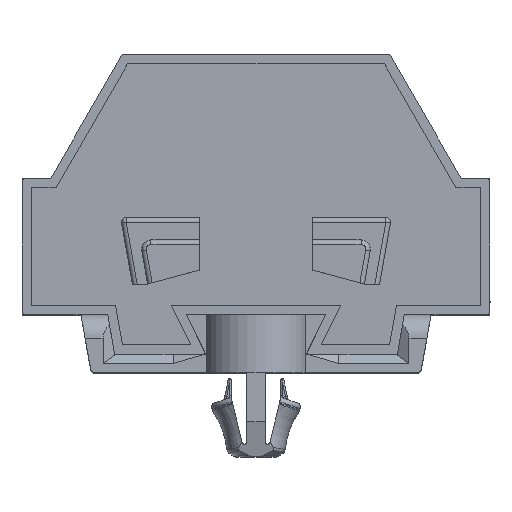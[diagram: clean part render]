
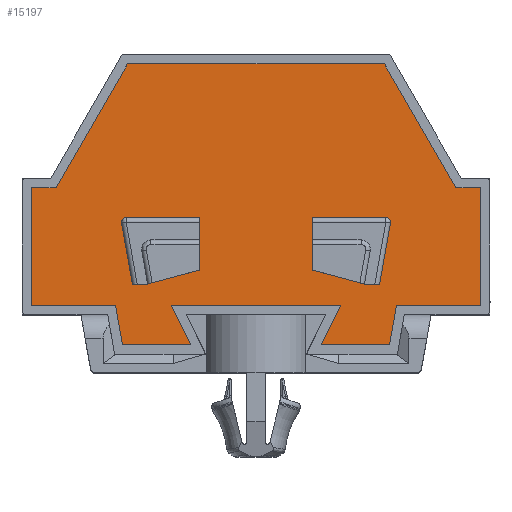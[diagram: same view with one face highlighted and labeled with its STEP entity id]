
A CAD part, top view. The second image highlights one B-rep face of the part: STEP entity #15197.
In plain terms, the highlighted planar face has unit normal (0, 0, 1).
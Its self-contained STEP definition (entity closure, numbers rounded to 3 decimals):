
#1500=DIRECTION('',(0.,-1.,0.));
#1501=VECTOR('',#1500,6.3);
#1502=CARTESIAN_POINT('',(12.,8.8,14.8));
#1503=LINE('',#1502,#1501);
#1504=DIRECTION('',(-1.,0.,0.));
#1505=VECTOR('',#1504,4.494);
#1506=CARTESIAN_POINT('',(12.,2.5,14.8));
#1507=LINE('',#1506,#1505);
#1508=DIRECTION('',(-0.174,-0.985,0.));
#1509=VECTOR('',#1508,2.132);
#1510=CARTESIAN_POINT('',(7.505,2.5,14.8));
#1511=LINE('',#1510,#1509);
#1512=DIRECTION('',(-1.,0.,0.));
#1513=VECTOR('',#1512,3.65);
#1514=CARTESIAN_POINT('',(7.135,0.4,14.8));
#1515=LINE('',#1514,#1513);
#1516=DIRECTION('',(0.447,0.894,0.));
#1517=VECTOR('',#1516,2.348);
#1518=CARTESIAN_POINT('',(3.485,0.4,14.8));
#1519=LINE('',#1518,#1517);
#1520=DIRECTION('',(-1.,0.,0.));
#1521=VECTOR('',#1520,9.07);
#1522=CARTESIAN_POINT('',(4.535,2.5,14.8));
#1523=LINE('',#1522,#1521);
#1524=DIRECTION('',(0.447,-0.894,0.));
#1525=VECTOR('',#1524,2.348);
#1526=CARTESIAN_POINT('',(-4.535,2.5,14.8));
#1527=LINE('',#1526,#1525);
#1528=DIRECTION('',(-1.,0.,0.));
#1529=VECTOR('',#1528,3.65);
#1530=CARTESIAN_POINT('',(-3.485,0.4,14.8));
#1531=LINE('',#1530,#1529);
#1532=DIRECTION('',(-0.174,0.985,0.));
#1533=VECTOR('',#1532,2.132);
#1534=CARTESIAN_POINT('',(-7.135,0.4,14.8));
#1535=LINE('',#1534,#1533);
#1536=DIRECTION('',(-1.,0.,0.));
#1537=VECTOR('',#1536,4.495);
#1538=CARTESIAN_POINT('',(-7.505,2.5,14.8));
#1539=LINE('',#1538,#1537);
#1540=DIRECTION('',(0.,1.,0.));
#1541=VECTOR('',#1540,6.3);
#1542=CARTESIAN_POINT('',(-12.,2.5,14.8));
#1543=LINE('',#1542,#1541);
#1544=DIRECTION('',(1.,0.,0.));
#1545=VECTOR('',#1544,1.328);
#1546=CARTESIAN_POINT('',(-12.,8.8,14.8));
#1547=LINE('',#1546,#1545);
#1548=DIRECTION('',(0.5,0.866,0.));
#1549=VECTOR('',#1548,7.621);
#1550=CARTESIAN_POINT('',(-10.672,8.8,14.8));
#1551=LINE('',#1550,#1549);
#1552=DIRECTION('',(1.,0.,0.));
#1553=VECTOR('',#1552,13.723);
#1554=CARTESIAN_POINT('',(-6.861,15.4,14.8));
#1555=LINE('',#1554,#1553);
#1556=DIRECTION('',(0.5,-0.866,0.));
#1557=VECTOR('',#1556,7.621);
#1558=CARTESIAN_POINT('',(6.861,15.4,14.8));
#1559=LINE('',#1558,#1557);
#1560=DIRECTION('',(1.,0.,0.));
#1561=VECTOR('',#1560,1.328);
#1562=CARTESIAN_POINT('',(10.672,8.8,14.8));
#1563=LINE('',#1562,#1561);
#1564=DIRECTION('',(1.,0.,0.));
#1565=VECTOR('',#1564,0.638);
#1566=CARTESIAN_POINT('',(5.959,3.6,14.8));
#1567=LINE('',#1566,#1565);
#1568=DIRECTION('',(0.174,0.985,0.));
#1569=VECTOR('',#1568,3.358);
#1570=CARTESIAN_POINT('',(6.598,3.6,14.8));
#1571=LINE('',#1570,#1569);
#1572=CARTESIAN_POINT('',(6.934,6.95,14.8));
#1573=DIRECTION('',(0.,0.,1.));
#1574=DIRECTION('',(0.985,-0.174,0.));
#1575=AXIS2_PLACEMENT_3D('',#1572,#1573,#1574);
#1577=DIRECTION('',(-1.,0.,0.));
#1578=VECTOR('',#1577,3.934);
#1579=CARTESIAN_POINT('',(6.934,7.2,14.8));
#1580=LINE('',#1579,#1578);
#1581=DIRECTION('',(0.,-1.,0.));
#1582=VECTOR('',#1581,2.807);
#1583=CARTESIAN_POINT('',(3.,7.2,14.8));
#1584=LINE('',#1583,#1582);
#1585=DIRECTION('',(0.966,-0.259,0.));
#1586=VECTOR('',#1585,3.064);
#1587=CARTESIAN_POINT('',(3.,4.393,14.8));
#1588=LINE('',#1587,#1586);
#1589=DIRECTION('',(-1.,0.,0.));
#1590=VECTOR('',#1589,3.934);
#1591=CARTESIAN_POINT('',(-3.,7.2,14.8));
#1592=LINE('',#1591,#1590);
#1593=CARTESIAN_POINT('',(-6.934,6.95,14.8));
#1594=DIRECTION('',(0.,0.,1.));
#1595=DIRECTION('',(0.,1.,0.));
#1596=AXIS2_PLACEMENT_3D('',#1593,#1594,#1595);
#1598=DIRECTION('',(0.174,-0.985,0.));
#1599=VECTOR('',#1598,3.358);
#1600=CARTESIAN_POINT('',(-7.181,6.907,14.8));
#1601=LINE('',#1600,#1599);
#1602=DIRECTION('',(1.,0.,0.));
#1603=VECTOR('',#1602,0.638);
#1604=CARTESIAN_POINT('',(-6.598,3.6,14.8));
#1605=LINE('',#1604,#1603);
#1606=DIRECTION('',(0.966,0.259,0.));
#1607=VECTOR('',#1606,3.064);
#1608=CARTESIAN_POINT('',(-5.959,3.6,14.8));
#1609=LINE('',#1608,#1607);
#1610=DIRECTION('',(0.,1.,0.));
#1611=VECTOR('',#1610,2.807);
#1612=CARTESIAN_POINT('',(-3.,4.393,14.8));
#1613=LINE('',#1612,#1611);
#12253=CARTESIAN_POINT('',(12.,2.5,14.8));
#12254=VERTEX_POINT('',#12253);
#12255=CARTESIAN_POINT('',(12.,8.8,14.8));
#12256=VERTEX_POINT('',#12255);
#12257=CARTESIAN_POINT('',(7.505,2.5,14.8));
#12258=VERTEX_POINT('',#12257);
#12259=CARTESIAN_POINT('',(7.135,0.4,14.8));
#12260=VERTEX_POINT('',#12259);
#12261=CARTESIAN_POINT('',(3.485,0.4,14.8));
#12262=VERTEX_POINT('',#12261);
#12263=CARTESIAN_POINT('',(4.535,2.5,14.8));
#12264=VERTEX_POINT('',#12263);
#12265=CARTESIAN_POINT('',(-4.535,2.5,14.8));
#12266=VERTEX_POINT('',#12265);
#12267=CARTESIAN_POINT('',(-3.485,0.4,14.8));
#12268=VERTEX_POINT('',#12267);
#12269=CARTESIAN_POINT('',(-7.135,0.4,14.8));
#12270=VERTEX_POINT('',#12269);
#12271=CARTESIAN_POINT('',(-7.505,2.5,14.8));
#12272=VERTEX_POINT('',#12271);
#12273=CARTESIAN_POINT('',(-12.,2.5,14.8));
#12274=VERTEX_POINT('',#12273);
#12275=CARTESIAN_POINT('',(-12.,8.8,14.8));
#12276=VERTEX_POINT('',#12275);
#12277=CARTESIAN_POINT('',(-10.672,8.8,14.8));
#12278=VERTEX_POINT('',#12277);
#12279=CARTESIAN_POINT('',(-6.861,15.4,14.8));
#12280=VERTEX_POINT('',#12279);
#12281=CARTESIAN_POINT('',(6.861,15.4,14.8));
#12282=VERTEX_POINT('',#12281);
#12283=CARTESIAN_POINT('',(10.672,8.8,14.8));
#12284=VERTEX_POINT('',#12283);
#12285=CARTESIAN_POINT('',(5.959,3.6,14.8));
#12286=CARTESIAN_POINT('',(6.598,3.6,14.8));
#12287=VERTEX_POINT('',#12285);
#12288=VERTEX_POINT('',#12286);
#12289=CARTESIAN_POINT('',(7.181,6.907,14.8));
#12290=VERTEX_POINT('',#12289);
#12291=CARTESIAN_POINT('',(6.934,7.2,14.8));
#12292=VERTEX_POINT('',#12291);
#12293=CARTESIAN_POINT('',(3.,7.2,14.8));
#12294=VERTEX_POINT('',#12293);
#12295=CARTESIAN_POINT('',(3.,4.393,14.8));
#12296=VERTEX_POINT('',#12295);
#12297=CARTESIAN_POINT('',(-3.,7.2,14.8));
#12298=CARTESIAN_POINT('',(-6.934,7.2,14.8));
#12299=VERTEX_POINT('',#12297);
#12300=VERTEX_POINT('',#12298);
#12301=CARTESIAN_POINT('',(-7.181,6.907,14.8));
#12302=VERTEX_POINT('',#12301);
#12303=CARTESIAN_POINT('',(-6.598,3.6,14.8));
#12304=VERTEX_POINT('',#12303);
#12305=CARTESIAN_POINT('',(-5.959,3.6,14.8));
#12306=VERTEX_POINT('',#12305);
#12307=CARTESIAN_POINT('',(-3.,4.393,14.8));
#12308=VERTEX_POINT('',#12307);
#15130=CARTESIAN_POINT('',(0.,0.,14.8));
#15131=DIRECTION('',(0.,0.,1.));
#15132=DIRECTION('',(1.,0.,0.));
#15133=AXIS2_PLACEMENT_3D('',#15130,#15131,#15132);
#15134=PLANE('',#15133);
#15136=ORIENTED_EDGE('',*,*,#15135,.T.);
#15138=ORIENTED_EDGE('',*,*,#15137,.T.);
#15140=ORIENTED_EDGE('',*,*,#15139,.T.);
#15142=ORIENTED_EDGE('',*,*,#15141,.T.);
#15144=ORIENTED_EDGE('',*,*,#15143,.T.);
#15146=ORIENTED_EDGE('',*,*,#15145,.T.);
#15148=ORIENTED_EDGE('',*,*,#15147,.T.);
#15150=ORIENTED_EDGE('',*,*,#15149,.T.);
#15152=ORIENTED_EDGE('',*,*,#15151,.T.);
#15154=ORIENTED_EDGE('',*,*,#15153,.T.);
#15156=ORIENTED_EDGE('',*,*,#15155,.T.);
#15158=ORIENTED_EDGE('',*,*,#15157,.T.);
#15160=ORIENTED_EDGE('',*,*,#15159,.T.);
#15162=ORIENTED_EDGE('',*,*,#15161,.T.);
#15164=ORIENTED_EDGE('',*,*,#15163,.T.);
#15166=ORIENTED_EDGE('',*,*,#15165,.T.);
#15167=EDGE_LOOP('',(#15136,#15138,#15140,#15142,#15144,#15146,#15148,#15150,
#15152,#15154,#15156,#15158,#15160,#15162,#15164,#15166));
#15168=FACE_OUTER_BOUND('',#15167,.F.);
#15170=ORIENTED_EDGE('',*,*,#15169,.T.);
#15172=ORIENTED_EDGE('',*,*,#15171,.T.);
#15174=ORIENTED_EDGE('',*,*,#15173,.T.);
#15176=ORIENTED_EDGE('',*,*,#15175,.T.);
#15178=ORIENTED_EDGE('',*,*,#15177,.T.);
#15180=ORIENTED_EDGE('',*,*,#15179,.T.);
#15181=EDGE_LOOP('',(#15170,#15172,#15174,#15176,#15178,#15180));
#15182=FACE_BOUND('',#15181,.F.);
#15184=ORIENTED_EDGE('',*,*,#15183,.T.);
#15186=ORIENTED_EDGE('',*,*,#15185,.T.);
#15188=ORIENTED_EDGE('',*,*,#15187,.T.);
#15190=ORIENTED_EDGE('',*,*,#15189,.T.);
#15192=ORIENTED_EDGE('',*,*,#15191,.T.);
#15194=ORIENTED_EDGE('',*,*,#15193,.T.);
#15195=EDGE_LOOP('',(#15184,#15186,#15188,#15190,#15192,#15194));
#15196=FACE_BOUND('',#15195,.F.);
#15197=ADVANCED_FACE('',(#15168,#15182,#15196),#15134,.T.);
#1576=CIRCLE('',#1575,0.25);
#1597=CIRCLE('',#1596,0.25);
#15135=EDGE_CURVE('',#12256,#12254,#1503,.T.);
#15137=EDGE_CURVE('',#12254,#12258,#1507,.T.);
#15139=EDGE_CURVE('',#12258,#12260,#1511,.T.);
#15141=EDGE_CURVE('',#12260,#12262,#1515,.T.);
#15143=EDGE_CURVE('',#12262,#12264,#1519,.T.);
#15145=EDGE_CURVE('',#12264,#12266,#1523,.T.);
#15147=EDGE_CURVE('',#12266,#12268,#1527,.T.);
#15149=EDGE_CURVE('',#12268,#12270,#1531,.T.);
#15151=EDGE_CURVE('',#12270,#12272,#1535,.T.);
#15153=EDGE_CURVE('',#12272,#12274,#1539,.T.);
#15155=EDGE_CURVE('',#12274,#12276,#1543,.T.);
#15157=EDGE_CURVE('',#12276,#12278,#1547,.T.);
#15159=EDGE_CURVE('',#12278,#12280,#1551,.T.);
#15161=EDGE_CURVE('',#12280,#12282,#1555,.T.);
#15163=EDGE_CURVE('',#12282,#12284,#1559,.T.);
#15165=EDGE_CURVE('',#12284,#12256,#1563,.T.);
#15169=EDGE_CURVE('',#12287,#12288,#1567,.T.);
#15171=EDGE_CURVE('',#12288,#12290,#1571,.T.);
#15173=EDGE_CURVE('',#12290,#12292,#1576,.T.);
#15175=EDGE_CURVE('',#12292,#12294,#1580,.T.);
#15177=EDGE_CURVE('',#12294,#12296,#1584,.T.);
#15179=EDGE_CURVE('',#12296,#12287,#1588,.T.);
#15183=EDGE_CURVE('',#12299,#12300,#1592,.T.);
#15185=EDGE_CURVE('',#12300,#12302,#1597,.T.);
#15187=EDGE_CURVE('',#12302,#12304,#1601,.T.);
#15189=EDGE_CURVE('',#12304,#12306,#1605,.T.);
#15191=EDGE_CURVE('',#12306,#12308,#1609,.T.);
#15193=EDGE_CURVE('',#12308,#12299,#1613,.T.);
